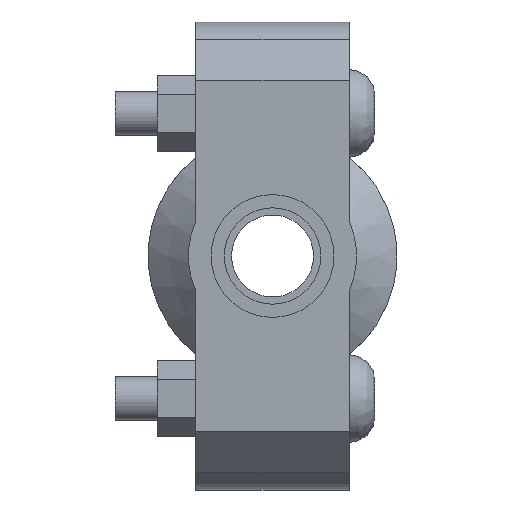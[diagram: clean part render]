
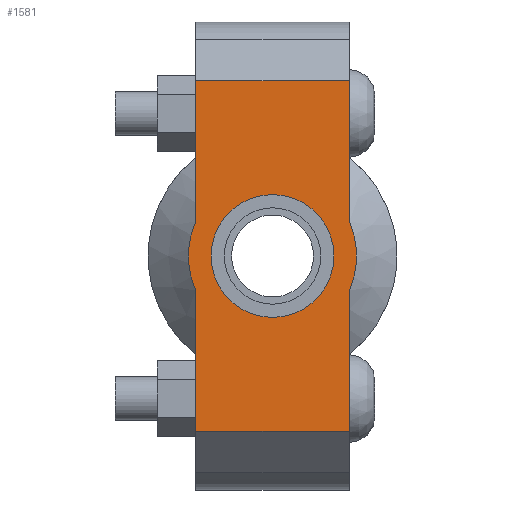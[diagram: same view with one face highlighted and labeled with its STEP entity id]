
A CAD part, left-side view. The second image highlights one B-rep face of the part: STEP entity #1581.
In plain terms, the highlighted planar face has unit normal (-1, 0, 0) as drawn and (0, 0, 1) by its records, which use the part's own axes.
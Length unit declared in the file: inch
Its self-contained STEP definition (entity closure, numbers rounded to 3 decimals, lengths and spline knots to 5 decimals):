
#136=LINE('',#2733,#233);
#151=LINE('',#2792,#248);
#159=LINE('',#2822,#256);
#161=LINE('',#2825,#258);
#162=LINE('',#2830,#259);
#163=LINE('',#2831,#260);
#233=VECTOR('',#2229,0.3937);
#248=VECTOR('',#2264,0.3937);
#256=VECTOR('',#2284,0.3937);
#258=VECTOR('',#2288,0.3937);
#259=VECTOR('',#2293,0.3937);
#260=VECTOR('',#2294,0.3937);
#324=FACE_BOUND('',#501,.T.);
#392=FACE_OUTER_BOUND('',#500,.T.);
#500=EDGE_LOOP('',(#1282,#1283,#1284,#1285,#1286,#1287,#1288,#1289));
#501=EDGE_LOOP('',(#1290));
#583=CIRCLE('',#1809,0.525);
#607=CIRCLE('',#1861,0.719);
#608=CIRCLE('',#1862,0.719);
#679=VERTEX_POINT('',#2559);
#720=VERTEX_POINT('',#2730);
#721=VERTEX_POINT('',#2732);
#742=VERTEX_POINT('',#2787);
#743=VERTEX_POINT('',#2791);
#752=VERTEX_POINT('',#2817);
#753=VERTEX_POINT('',#2821);
#754=VERTEX_POINT('',#2827);
#755=VERTEX_POINT('',#2829);
#843=EDGE_CURVE('',#679,#679,#583,.T.);
#900=EDGE_CURVE('',#721,#720,#136,.T.);
#925=EDGE_CURVE('',#743,#742,#151,.T.);
#938=EDGE_CURVE('',#753,#752,#159,.T.);
#940=EDGE_CURVE('',#753,#720,#161,.T.);
#941=EDGE_CURVE('',#752,#754,#607,.T.);
#942=EDGE_CURVE('',#754,#755,#162,.T.);
#943=EDGE_CURVE('',#743,#755,#163,.T.);
#944=EDGE_CURVE('',#742,#721,#608,.T.);
#1282=ORIENTED_EDGE('',*,*,#940,.F.);
#1283=ORIENTED_EDGE('',*,*,#938,.T.);
#1284=ORIENTED_EDGE('',*,*,#941,.T.);
#1285=ORIENTED_EDGE('',*,*,#942,.T.);
#1286=ORIENTED_EDGE('',*,*,#943,.F.);
#1287=ORIENTED_EDGE('',*,*,#925,.T.);
#1288=ORIENTED_EDGE('',*,*,#944,.T.);
#1289=ORIENTED_EDGE('',*,*,#900,.T.);
#1290=ORIENTED_EDGE('',*,*,#843,.T.);
#1421=PLANE('',#1860);
#1581=ADVANCED_FACE('',(#392,#324),#1421,.T.);
#1809=AXIS2_PLACEMENT_3D('',#2561,#2119,#2120);
#1860=AXIS2_PLACEMENT_3D('',#2826,#2289,#2290);
#1861=AXIS2_PLACEMENT_3D('',#2828,#2291,#2292);
#1862=AXIS2_PLACEMENT_3D('',#2832,#2295,#2296);
#2119=DIRECTION('center_axis',(0.,0.,-1.));
#2120=DIRECTION('ref_axis',(-1.,0.,0.));
#2229=DIRECTION('',(-1.,0.,0.));
#2264=DIRECTION('',(-1.,0.,0.));
#2284=DIRECTION('',(1.,0.,0.));
#2288=DIRECTION('',(0.,1.,0.));
#2289=DIRECTION('center_axis',(0.,0.,1.));
#2290=DIRECTION('ref_axis',(1.,0.,0.));
#2291=DIRECTION('center_axis',(0.,0.,1.));
#2292=DIRECTION('ref_axis',(-1.,0.,0.));
#2293=DIRECTION('',(1.,0.,0.));
#2294=DIRECTION('',(0.,-1.,0.));
#2295=DIRECTION('center_axis',(0.,0.,1.));
#2296=DIRECTION('ref_axis',(-1.,0.,0.));
#2559=CARTESIAN_POINT('',(0.525,0.,0.875));
#2561=CARTESIAN_POINT('Origin',(0.,0.,0.875));
#2730=CARTESIAN_POINT('',(-1.5,0.656,0.875));
#2732=CARTESIAN_POINT('',(-0.29432,0.656,0.875));
#2733=CARTESIAN_POINT('',(2.,0.656,0.875));
#2787=CARTESIAN_POINT('',(0.29432,0.656,0.875));
#2791=CARTESIAN_POINT('',(1.5,0.656,0.875));
#2792=CARTESIAN_POINT('',(2.,0.656,0.875));
#2817=CARTESIAN_POINT('',(-0.29432,-0.656,0.875));
#2821=CARTESIAN_POINT('',(-1.5,-0.656,0.875));
#2822=CARTESIAN_POINT('',(-2.,-0.656,0.875));
#2825=CARTESIAN_POINT('',(-1.5,0.328,0.875));
#2826=CARTESIAN_POINT('Origin',(0.,0.,
0.875));
#2827=CARTESIAN_POINT('',(0.29432,-0.656,0.875));
#2828=CARTESIAN_POINT('Origin',(0.,0.,0.875));
#2829=CARTESIAN_POINT('',(1.5,-0.656,0.875));
#2830=CARTESIAN_POINT('',(-2.,-0.656,0.875));
#2831=CARTESIAN_POINT('',(1.5,-0.328,0.875));
#2832=CARTESIAN_POINT('Origin',(0.,0.,0.875));
